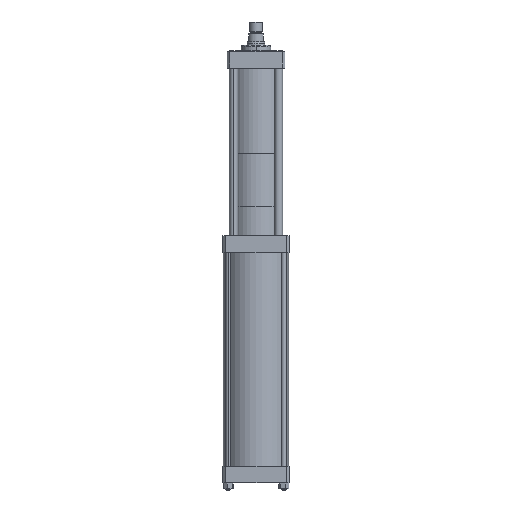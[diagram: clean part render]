
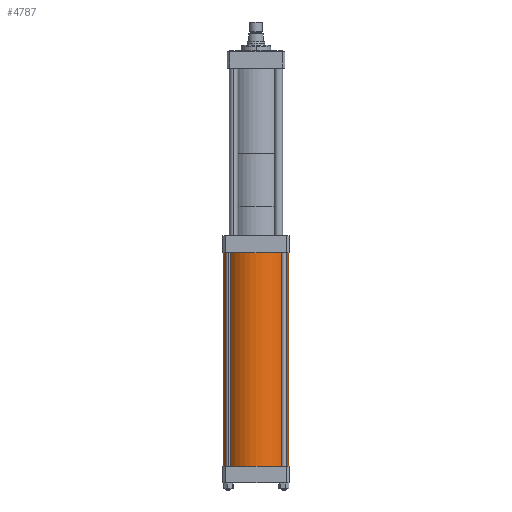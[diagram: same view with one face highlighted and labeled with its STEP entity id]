
A CAD part, front view. The second image highlights one B-rep face of the part: STEP entity #4787.
In plain terms, the highlighted cylindrical face has radius 55 mm (diameter 110 mm), a partial arc.
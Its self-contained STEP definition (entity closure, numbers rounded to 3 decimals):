
#470 = FACE_OUTER_BOUND ( 'NONE', #3312, .T. ) ;
#683 = ORIENTED_EDGE ( 'NONE', *, *, #9429, .T. ) ;
#1448 = AXIS2_PLACEMENT_3D ( 'NONE', #3256, #14569, #6145 ) ;
#1567 = VECTOR ( 'NONE', #14674, 1000. ) ;
#2419 = CARTESIAN_POINT ( 'NONE',  ( 0., 0., 180.5 ) ) ;
#2583 = DIRECTION ( 'NONE',  ( 0., 0., -1. ) ) ;
#3256 = CARTESIAN_POINT ( 'NONE',  ( 0., 0., 180.5 ) ) ;
#3312 = EDGE_LOOP ( 'NONE', ( #16651, #4700, #12417, #683 ) ) ;
#3350 = LINE ( 'NONE', #14488, #1567 ) ;
#4181 = CARTESIAN_POINT ( 'NONE',  ( 55., 0., 180.5 ) ) ;
#4246 = CIRCLE ( 'NONE', #14615, 55. ) ;
#4451 = CARTESIAN_POINT ( 'NONE',  ( -55., 0., 180.5 ) ) ;
#4700 = ORIENTED_EDGE ( 'NONE', *, *, #15435, .F. ) ;
#4729 = DIRECTION ( 'NONE',  ( 1., 0., 0. ) ) ;
#4787 = ADVANCED_FACE ( 'NONE', ( #470 ), #10301, .T. ) ;
#5197 = CARTESIAN_POINT ( 'NONE',  ( -55., 0., -180.5 ) ) ;
#6145 = DIRECTION ( 'NONE',  ( -1., 0., 0. ) ) ;
#6680 = CARTESIAN_POINT ( 'NONE',  ( -55., 0., 180.5 ) ) ;
#8184 = VERTEX_POINT ( 'NONE', #4451 ) ;
#8394 = VERTEX_POINT ( 'NONE', #5197 ) ;
#8563 = EDGE_CURVE ( 'NONE', #8184, #8394, #15187, .T. ) ;
#8764 = CIRCLE ( 'NONE', #11126, 55. ) ;
#8900 = CARTESIAN_POINT ( 'NONE',  ( 0., 0., -180.5 ) ) ;
#9110 = DIRECTION ( 'NONE',  ( 1., 0., 0. ) ) ;
#9429 = EDGE_CURVE ( 'NONE', #8394, #9459, #8764, .T. ) ;
#9459 = VERTEX_POINT ( 'NONE', #11675 ) ;
#10301 = CYLINDRICAL_SURFACE ( 'NONE', #1448, 55. ) ;
#10469 = DIRECTION ( 'NONE',  ( 0., 0., 1. ) ) ;
#11126 = AXIS2_PLACEMENT_3D ( 'NONE', #8900, #10469, #4729 ) ;
#11498 = VERTEX_POINT ( 'NONE', #4181 ) ;
#11675 = CARTESIAN_POINT ( 'NONE',  ( 55., 0., -180.5 ) ) ;
#12417 = ORIENTED_EDGE ( 'NONE', *, *, #8563, .T. ) ;
#13734 = DIRECTION ( 'NONE',  ( 0., 0., 1. ) ) ;
#13758 = VECTOR ( 'NONE', #2583, 1000. ) ;
#14488 = CARTESIAN_POINT ( 'NONE',  ( 55., 0., 180.5 ) ) ;
#14569 = DIRECTION ( 'NONE',  ( 0., 0., -1. ) ) ;
#14615 = AXIS2_PLACEMENT_3D ( 'NONE', #2419, #13734, #9110 ) ;
#14674 = DIRECTION ( 'NONE',  ( 0., 0., -1. ) ) ;
#15187 = LINE ( 'NONE', #6680, #13758 ) ;
#15300 = EDGE_CURVE ( 'NONE', #11498, #9459, #3350, .T. ) ;
#15435 = EDGE_CURVE ( 'NONE', #8184, #11498, #4246, .T. ) ;
#16651 = ORIENTED_EDGE ( 'NONE', *, *, #15300, .F. ) ;
